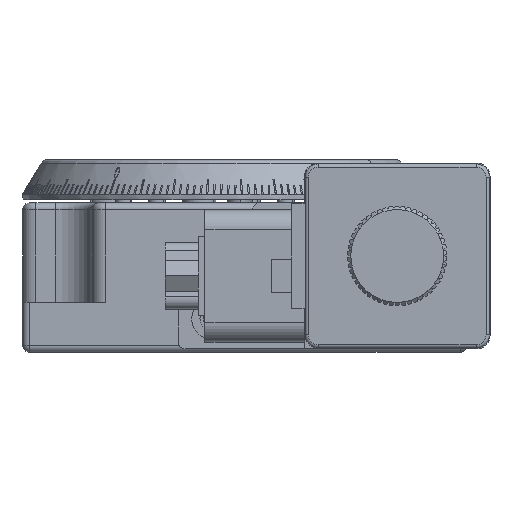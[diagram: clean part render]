
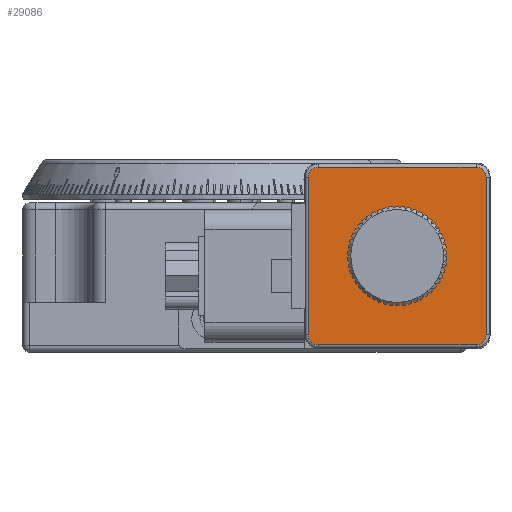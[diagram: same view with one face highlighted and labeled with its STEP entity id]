
A CAD part, front view. The second image highlights one B-rep face of the part: STEP entity #29086.
In plain terms, the highlighted planar face has unit normal (0, -1, 0).
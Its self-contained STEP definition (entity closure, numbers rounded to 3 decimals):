
#777 = ORIENTED_EDGE ( 'NONE', *, *, #33695, .T. ) ;
#838 = CARTESIAN_POINT ( 'NONE',  ( 13.1, -93., 26.4 ) ) ;
#1265 = LINE ( 'NONE', #33383, #42262 ) ;
#1416 = CARTESIAN_POINT ( 'NONE',  ( 26.5, -93., 14.5 ) ) ;
#1845 = EDGE_CURVE ( 'NONE', #48891, #50685, #12084, .T. ) ;
#2134 = EDGE_CURVE ( 'NONE', #26399, #23822, #49865, .T. ) ;
#2651 = AXIS2_PLACEMENT_3D ( 'NONE', #1416, #29350, #33347 ) ;
#3273 = CIRCLE ( 'NONE', #7046, 1.5 ) ;
#3470 = CARTESIAN_POINT ( 'NONE',  ( 26.5, -93., 12. ) ) ;
#3537 = LINE ( 'NONE', #13902, #12863 ) ;
#3759 = AXIS2_PLACEMENT_3D ( 'NONE', #31119, #35262, #7185 ) ;
#3844 = VERTEX_POINT ( 'NONE', #22711 ) ;
#5616 = CARTESIAN_POINT ( 'NONE',  ( 26.5, -93., 17. ) ) ;
#5881 = ORIENTED_EDGE ( 'NONE', *, *, #26922, .T. ) ;
#6347 = EDGE_LOOP ( 'NONE', ( #18986, #48151 ) ) ;
#6453 = DIRECTION ( 'NONE',  ( 0., 0., 1. ) ) ;
#6488 = DIRECTION ( 'NONE',  ( 0., 0., 1. ) ) ;
#7046 = AXIS2_PLACEMENT_3D ( 'NONE', #32584, #40079, #32080 ) ;
#7160 = EDGE_CURVE ( 'NONE', #21574, #26399, #42167, .T. ) ;
#7185 = DIRECTION ( 'NONE',  ( 0., 0., 1. ) ) ;
#8104 = EDGE_CURVE ( 'NONE', #13319, #40372, #38975, .T. ) ;
#8444 = VECTOR ( 'NONE', #35246, 1000. ) ;
#8814 = ORIENTED_EDGE ( 'NONE', *, *, #14735, .T. ) ;
#9774 = EDGE_CURVE ( 'NONE', #23822, #26464, #3273, .T. ) ;
#9915 = PLANE ( 'NONE',  #40247 ) ;
#12084 = CIRCLE ( 'NONE', #30136, 2.5 ) ;
#12863 = VECTOR ( 'NONE', #6453, 1000. ) ;
#13319 = VERTEX_POINT ( 'NONE', #24844 ) ;
#13650 = ORIENTED_EDGE ( 'NONE', *, *, #32873, .T. ) ;
#13902 = CARTESIAN_POINT ( 'NONE',  ( 39.9, -93., 26.4 ) ) ;
#14701 = CARTESIAN_POINT ( 'NONE',  ( 26.5, -93., 14.5 ) ) ;
#14735 = EDGE_CURVE ( 'NONE', #38147, #3844, #38472, .T. ) ;
#15561 = AXIS2_PLACEMENT_3D ( 'NONE', #25667, #33491, #37491 ) ;
#16652 = ORIENTED_EDGE ( 'NONE', *, *, #9774, .T. ) ;
#17205 = CARTESIAN_POINT ( 'NONE',  ( 13.1, -93., 2.6 ) ) ;
#17239 = CARTESIAN_POINT ( 'NONE',  ( 14.6, -93., 1.1 ) ) ;
#17800 = CARTESIAN_POINT ( 'NONE',  ( 40.4, -93., 0.6 ) ) ;
#17857 = ORIENTED_EDGE ( 'NONE', *, *, #2134, .T. ) ;
#18986 = ORIENTED_EDGE ( 'NONE', *, *, #30363, .F. ) ;
#21221 = DIRECTION ( 'NONE',  ( 0., 0., -1. ) ) ;
#21574 = VERTEX_POINT ( 'NONE', #42506 ) ;
#21834 = DIRECTION ( 'NONE',  ( 0., -1., 0. ) ) ;
#22711 = CARTESIAN_POINT ( 'NONE',  ( 39.9, -93., 2.6 ) ) ;
#23822 = VERTEX_POINT ( 'NONE', #32390 ) ;
#24844 = CARTESIAN_POINT ( 'NONE',  ( 39.9, -93., 26.4 ) ) ;
#25562 = DIRECTION ( 'NONE',  ( -1., 0., 0. ) ) ;
#25667 = CARTESIAN_POINT ( 'NONE',  ( 14.6, -93., 26.4 ) ) ;
#26399 = VERTEX_POINT ( 'NONE', #838 ) ;
#26464 = VERTEX_POINT ( 'NONE', #17239 ) ;
#26922 = EDGE_CURVE ( 'NONE', #40372, #21574, #1265, .T. ) ;
#28013 = CARTESIAN_POINT ( 'NONE',  ( 38.4, -93., 27.9 ) ) ;
#29086 = ADVANCED_FACE ( 'NONE', ( #36600, #29748 ), #9915, .T. ) ;
#29212 = ORIENTED_EDGE ( 'NONE', *, *, #8104, .T. ) ;
#29350 = DIRECTION ( 'NONE',  ( 0., -1., 0. ) ) ;
#29748 = FACE_BOUND ( 'NONE', #6347, .T. ) ;
#30007 = DIRECTION ( 'NONE',  ( 0., -1., 0. ) ) ;
#30136 = AXIS2_PLACEMENT_3D ( 'NONE', #14701, #30007, #38190 ) ;
#30363 = EDGE_CURVE ( 'NONE', #50685, #48891, #51390, .T. ) ;
#31119 = CARTESIAN_POINT ( 'NONE',  ( 38.4, -93., 2.6 ) ) ;
#31290 = AXIS2_PLACEMENT_3D ( 'NONE', #50348, #38622, #6488 ) ;
#32080 = DIRECTION ( 'NONE',  ( 0., 0., 1. ) ) ;
#32390 = CARTESIAN_POINT ( 'NONE',  ( 13.1, -93., 2.6 ) ) ;
#32584 = CARTESIAN_POINT ( 'NONE',  ( 14.6, -93., 2.6 ) ) ;
#32873 = EDGE_CURVE ( 'NONE', #3844, #13319, #3537, .T. ) ;
#33347 = DIRECTION ( 'NONE',  ( 0., 0., 1. ) ) ;
#33383 = CARTESIAN_POINT ( 'NONE',  ( 14.6, -93., 27.9 ) ) ;
#33491 = DIRECTION ( 'NONE',  ( 0., -1., 0. ) ) ;
#33695 = EDGE_CURVE ( 'NONE', #26464, #38147, #33839, .T. ) ;
#33839 = LINE ( 'NONE', #39786, #8444 ) ;
#35246 = DIRECTION ( 'NONE',  ( 1., 0., 0. ) ) ;
#35262 = DIRECTION ( 'NONE',  ( 0., -1., 0. ) ) ;
#36600 = FACE_OUTER_BOUND ( 'NONE', #46094, .T. ) ;
#37491 = DIRECTION ( 'NONE',  ( 0., 0., 1. ) ) ;
#38147 = VERTEX_POINT ( 'NONE', #44661 ) ;
#38190 = DIRECTION ( 'NONE',  ( 0., 0., 1. ) ) ;
#38472 = CIRCLE ( 'NONE', #3759, 1.5 ) ;
#38622 = DIRECTION ( 'NONE',  ( 0., -1., 0. ) ) ;
#38975 = CIRCLE ( 'NONE', #31290, 1.5 ) ;
#39230 = ORIENTED_EDGE ( 'NONE', *, *, #7160, .T. ) ;
#39786 = CARTESIAN_POINT ( 'NONE',  ( 38.4, -93., 1.1 ) ) ;
#40079 = DIRECTION ( 'NONE',  ( 0., -1., 0. ) ) ;
#40247 = AXIS2_PLACEMENT_3D ( 'NONE', #17800, #21834, #49586 ) ;
#40372 = VERTEX_POINT ( 'NONE', #28013 ) ;
#42167 = CIRCLE ( 'NONE', #15561, 1.5 ) ;
#42262 = VECTOR ( 'NONE', #25562, 1000. ) ;
#42506 = CARTESIAN_POINT ( 'NONE',  ( 14.6, -93., 27.9 ) ) ;
#44661 = CARTESIAN_POINT ( 'NONE',  ( 38.4, -93., 1.1 ) ) ;
#46094 = EDGE_LOOP ( 'NONE', ( #777, #8814, #13650, #29212, #5881, #39230, #17857, #16652 ) ) ;
#48151 = ORIENTED_EDGE ( 'NONE', *, *, #1845, .F. ) ;
#48891 = VERTEX_POINT ( 'NONE', #3470 ) ;
#49586 = DIRECTION ( 'NONE',  ( 0., 0., 1. ) ) ;
#49865 = LINE ( 'NONE', #17205, #51116 ) ;
#50348 = CARTESIAN_POINT ( 'NONE',  ( 38.4, -93., 26.4 ) ) ;
#50685 = VERTEX_POINT ( 'NONE', #5616 ) ;
#51116 = VECTOR ( 'NONE', #21221, 1000. ) ;
#51390 = CIRCLE ( 'NONE', #2651, 2.5 ) ;
